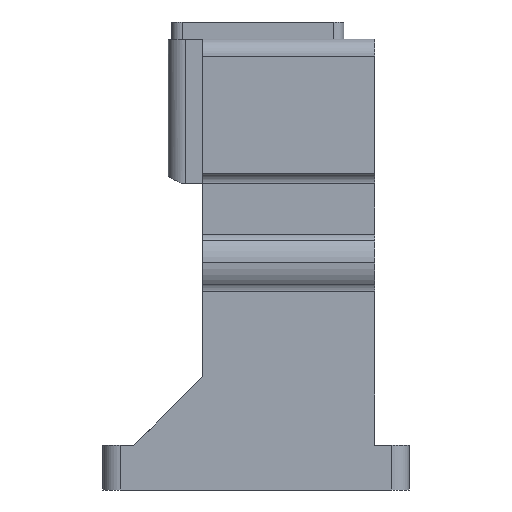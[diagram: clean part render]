
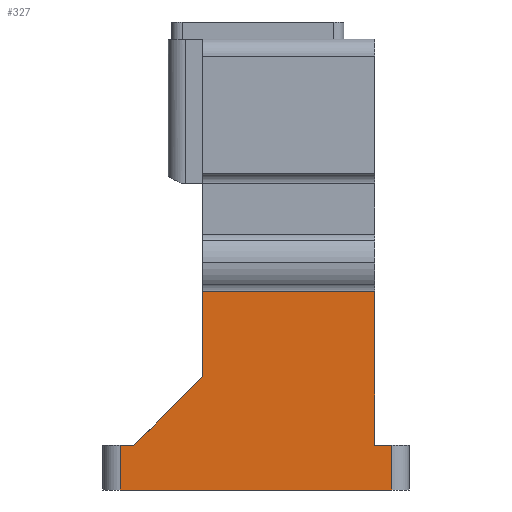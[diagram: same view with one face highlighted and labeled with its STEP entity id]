
A CAD part, left-side view. The second image highlights one B-rep face of the part: STEP entity #327.
In plain terms, the highlighted planar face has unit normal (-1, 0, 0).
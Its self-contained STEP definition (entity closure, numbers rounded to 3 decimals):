
#280 = CARTESIAN_POINT ( 'NONE',  ( 3., 0., -118. ) ) ;
#306 = CARTESIAN_POINT ( 'NONE',  ( 3., 74., -131. ) ) ;
#327 = ADVANCED_FACE ( 'NONE', ( #3569 ), #2468, .F. ) ;
#414 = CARTESIAN_POINT ( 'NONE',  ( 3., 0., -40. ) ) ;
#668 = EDGE_LOOP ( 'NONE', ( #12228, #2214, #7457, #2242, #12690, #3178, #11329, #5179, #8937 ) ) ;
#679 = CARTESIAN_POINT ( 'NONE',  ( 3., 79., -118. ) ) ;
#822 = VERTEX_POINT ( 'NONE', #3979 ) ;
#931 = CARTESIAN_POINT ( 'NONE',  ( 3., 50., -73.307 ) ) ;
#1149 = VERTEX_POINT ( 'NONE', #7754 ) ;
#1208 = DIRECTION ( 'NONE',  ( 0., 1., 0. ) ) ;
#1231 = CARTESIAN_POINT ( 'NONE',  ( 3., 50., -40. ) ) ;
#1631 = CARTESIAN_POINT ( 'NONE',  ( 3., -5., -131. ) ) ;
#1797 = EDGE_CURVE ( 'NONE', #822, #1149, #9157, .T. ) ;
#2048 = VECTOR ( 'NONE', #11621, 1000. ) ;
#2214 = ORIENTED_EDGE ( 'NONE', *, *, #2739, .T. ) ;
#2242 = ORIENTED_EDGE ( 'NONE', *, *, #11113, .T. ) ;
#2468 = PLANE ( 'NONE',  #4556 ) ;
#2569 = VERTEX_POINT ( 'NONE', #1631 ) ;
#2739 = EDGE_CURVE ( 'NONE', #11795, #822, #10719, .T. ) ;
#2863 = VECTOR ( 'NONE', #7713, 1000. ) ;
#2873 = CARTESIAN_POINT ( 'NONE',  ( 3., 74., -131. ) ) ;
#2964 = LINE ( 'NONE', #9728, #2863 ) ;
#3178 = ORIENTED_EDGE ( 'NONE', *, *, #8271, .T. ) ;
#3380 = DIRECTION ( 'NONE',  ( 0., 0., 1. ) ) ;
#3569 = FACE_OUTER_BOUND ( 'NONE', #668, .T. ) ;
#3618 = EDGE_CURVE ( 'NONE', #11548, #8605, #2964, .T. ) ;
#3935 = VECTOR ( 'NONE', #3380, 1000. ) ;
#3979 = CARTESIAN_POINT ( 'NONE',  ( 3., 50., -73.307 ) ) ;
#4151 = VECTOR ( 'NONE', #9347, 1000. ) ;
#4168 = LINE ( 'NONE', #306, #9405 ) ;
#4384 = LINE ( 'NONE', #10184, #4151 ) ;
#4556 = AXIS2_PLACEMENT_3D ( 'NONE', #4594, #6516, #9303 ) ;
#4594 = CARTESIAN_POINT ( 'NONE',  ( 3., -10., 0. ) ) ;
#5156 = DIRECTION ( 'NONE',  ( 0., 0., -1. ) ) ;
#5179 = ORIENTED_EDGE ( 'NONE', *, *, #6422, .T. ) ;
#5656 = VERTEX_POINT ( 'NONE', #2873 ) ;
#5681 = VECTOR ( 'NONE', #1208, 1000. ) ;
#5682 = LINE ( 'NONE', #6398, #8059 ) ;
#5733 = DIRECTION ( 'NONE',  ( 0., 1., 0. ) ) ;
#5921 = CARTESIAN_POINT ( 'NONE',  ( 3., 0., -73.307 ) ) ;
#6398 = CARTESIAN_POINT ( 'NONE',  ( 3., 50., -98. ) ) ;
#6422 = EDGE_CURVE ( 'NONE', #2569, #11548, #4384, .T. ) ;
#6516 = DIRECTION ( 'NONE',  ( 1., 0., 0. ) ) ;
#6520 = DIRECTION ( 'NONE',  ( 0., 0., -1. ) ) ;
#7230 = LINE ( 'NONE', #414, #3935 ) ;
#7232 = EDGE_CURVE ( 'NONE', #2569, #5656, #12696, .T. ) ;
#7341 = CARTESIAN_POINT ( 'NONE',  ( 3., -5., -118. ) ) ;
#7457 = ORIENTED_EDGE ( 'NONE', *, *, #1797, .T. ) ;
#7713 = DIRECTION ( 'NONE',  ( 0., 1., 0. ) ) ;
#7754 = CARTESIAN_POINT ( 'NONE',  ( 3., 50., -98. ) ) ;
#8059 = VECTOR ( 'NONE', #10594, 1000. ) ;
#8248 = EDGE_CURVE ( 'NONE', #12524, #8542, #10032, .T. ) ;
#8271 = EDGE_CURVE ( 'NONE', #8542, #5656, #4168, .T. ) ;
#8542 = VERTEX_POINT ( 'NONE', #11094 ) ;
#8605 = VERTEX_POINT ( 'NONE', #280 ) ;
#8644 = CARTESIAN_POINT ( 'NONE',  ( 3., -10., -131. ) ) ;
#8847 = VECTOR ( 'NONE', #5156, 1000. ) ;
#8937 = ORIENTED_EDGE ( 'NONE', *, *, #3618, .T. ) ;
#9157 = LINE ( 'NONE', #1231, #8847 ) ;
#9303 = DIRECTION ( 'NONE',  ( 0., 1., 0. ) ) ;
#9347 = DIRECTION ( 'NONE',  ( 0., 0., 1. ) ) ;
#9405 = VECTOR ( 'NONE', #6520, 1000. ) ;
#9728 = CARTESIAN_POINT ( 'NONE',  ( 3., -10., -118. ) ) ;
#9887 = VECTOR ( 'NONE', #5733, 1000. ) ;
#9986 = EDGE_CURVE ( 'NONE', #8605, #11795, #7230, .T. ) ;
#10032 = LINE ( 'NONE', #679, #5681 ) ;
#10184 = CARTESIAN_POINT ( 'NONE',  ( 3., -5., -118. ) ) ;
#10594 = DIRECTION ( 'NONE',  ( 0., 0.707, -0.707 ) ) ;
#10719 = LINE ( 'NONE', #931, #2048 ) ;
#10793 = CARTESIAN_POINT ( 'NONE',  ( 3., 70., -118. ) ) ;
#11094 = CARTESIAN_POINT ( 'NONE',  ( 3., 74., -118. ) ) ;
#11113 = EDGE_CURVE ( 'NONE', #1149, #12524, #5682, .T. ) ;
#11329 = ORIENTED_EDGE ( 'NONE', *, *, #7232, .F. ) ;
#11548 = VERTEX_POINT ( 'NONE', #7341 ) ;
#11621 = DIRECTION ( 'NONE',  ( 0., 1., 0. ) ) ;
#11795 = VERTEX_POINT ( 'NONE', #5921 ) ;
#12228 = ORIENTED_EDGE ( 'NONE', *, *, #9986, .T. ) ;
#12524 = VERTEX_POINT ( 'NONE', #10793 ) ;
#12690 = ORIENTED_EDGE ( 'NONE', *, *, #8248, .T. ) ;
#12696 = LINE ( 'NONE', #8644, #9887 ) ;
